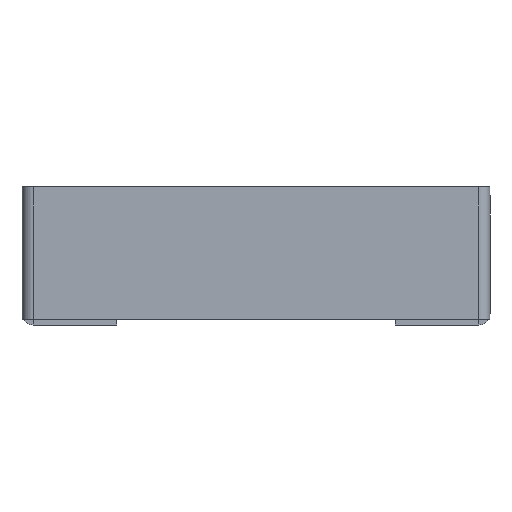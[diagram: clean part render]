
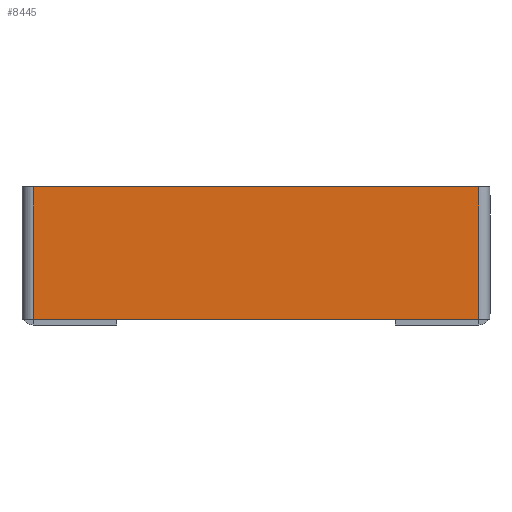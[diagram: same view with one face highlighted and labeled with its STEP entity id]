
A CAD part, front view. The second image highlights one B-rep face of the part: STEP entity #8445.
In plain terms, the highlighted planar face has unit normal (0, -1, 0).
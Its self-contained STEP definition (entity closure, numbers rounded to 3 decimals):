
#381 = DIRECTION ( 'NONE',  ( 0., 0., 1. ) ) ;
#526 = CARTESIAN_POINT ( 'NONE',  ( -97.5, -2.5, 0. ) ) ;
#577 = VECTOR ( 'NONE', #6939, 1000. ) ;
#689 = DIRECTION ( 'NONE',  ( 0., 0., 1. ) ) ;
#944 = EDGE_CURVE ( 'NONE', #6537, #1090, #4616, .T. ) ;
#990 = AXIS2_PLACEMENT_3D ( 'NONE', #3963, #2066, #689 ) ;
#1016 = VECTOR ( 'NONE', #1057, 1000. ) ;
#1057 = DIRECTION ( 'NONE',  ( 1., 0., 0. ) ) ;
#1090 = VERTEX_POINT ( 'NONE', #1973 ) ;
#1635 = DIRECTION ( 'NONE',  ( 0., 0., -1. ) ) ;
#1683 = ORIENTED_EDGE ( 'NONE', *, *, #3780, .F. ) ;
#1833 = CARTESIAN_POINT ( 'NONE',  ( -100., -2.5, -58. ) ) ;
#1973 = CARTESIAN_POINT ( 'NONE',  ( 97.5, -2.5, 0. ) ) ;
#2066 = DIRECTION ( 'NONE',  ( 0., 1., 0. ) ) ;
#3659 = CARTESIAN_POINT ( 'NONE',  ( -100., -2.5, 0. ) ) ;
#3780 = EDGE_CURVE ( 'NONE', #6537, #4055, #3854, .T. ) ;
#3802 = EDGE_LOOP ( 'NONE', ( #4331, #1683, #6743, #4069 ) ) ;
#3854 = LINE ( 'NONE', #1833, #577 ) ;
#3963 = CARTESIAN_POINT ( 'NONE',  ( 0., -2.5, 0. ) ) ;
#4055 = VERTEX_POINT ( 'NONE', #5498 ) ;
#4069 = ORIENTED_EDGE ( 'NONE', *, *, #4958, .F. ) ;
#4160 = VECTOR ( 'NONE', #1635, 1000. ) ;
#4171 = EDGE_CURVE ( 'NONE', #5807, #4055, #4651, .T. ) ;
#4307 = CARTESIAN_POINT ( 'NONE',  ( -97.5, -2.5, 0. ) ) ;
#4331 = ORIENTED_EDGE ( 'NONE', *, *, #4171, .T. ) ;
#4616 = LINE ( 'NONE', #7669, #5339 ) ;
#4651 = LINE ( 'NONE', #4307, #4160 ) ;
#4781 = LINE ( 'NONE', #3659, #1016 ) ;
#4958 = EDGE_CURVE ( 'NONE', #5807, #1090, #4781, .T. ) ;
#5339 = VECTOR ( 'NONE', #381, 1000. ) ;
#5498 = CARTESIAN_POINT ( 'NONE',  ( -97.5, -2.5, -58. ) ) ;
#5655 = FACE_OUTER_BOUND ( 'NONE', #3802, .T. ) ;
#5807 = VERTEX_POINT ( 'NONE', #526 ) ;
#6029 = CARTESIAN_POINT ( 'NONE',  ( 97.5, -2.5, -58. ) ) ;
#6537 = VERTEX_POINT ( 'NONE', #6029 ) ;
#6547 = PLANE ( 'NONE',  #990 ) ;
#6743 = ORIENTED_EDGE ( 'NONE', *, *, #944, .T. ) ;
#6939 = DIRECTION ( 'NONE',  ( -1., 0., 0. ) ) ;
#7669 = CARTESIAN_POINT ( 'NONE',  ( 97.5, -2.5, -58. ) ) ;
#8445 = ADVANCED_FACE ( 'NONE', ( #5655 ), #6547, .F. ) ;
